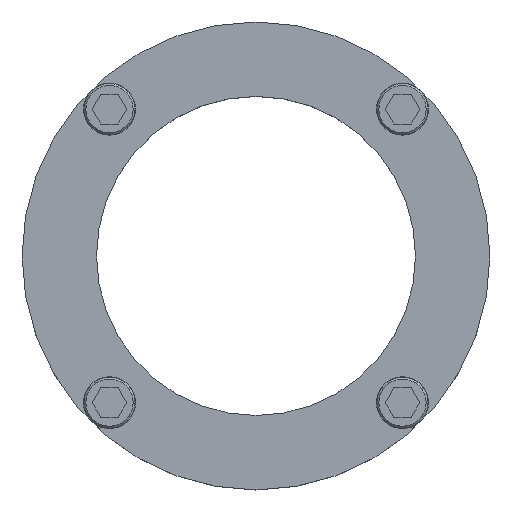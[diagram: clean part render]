
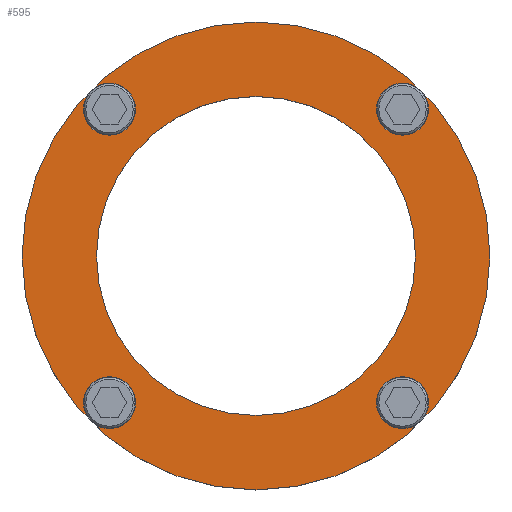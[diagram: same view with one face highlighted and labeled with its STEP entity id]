
A CAD part, top view. The second image highlights one B-rep face of the part: STEP entity #595.
In plain terms, the highlighted planar face has unit normal (0, 0, 1).
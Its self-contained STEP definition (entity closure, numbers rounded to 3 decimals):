
#595=ADVANCED_FACE('',(#779,#780,#781,#782,#783,#784),#725,.T.);
#725=PLANE('',#2192);
#779=FACE_BOUND('',#839,.T.);
#780=FACE_BOUND('',#840,.T.);
#781=FACE_BOUND('',#841,.T.);
#782=FACE_BOUND('',#842,.T.);
#783=FACE_BOUND('',#843,.T.);
#784=FACE_BOUND('',#844,.T.);
#839=EDGE_LOOP('',(#1007,#1008));
#840=EDGE_LOOP('',(#1009,#1010));
#841=EDGE_LOOP('',(#1011,#1012));
#842=EDGE_LOOP('',(#1013,#1014));
#843=EDGE_LOOP('',(#1015,#1016));
#844=EDGE_LOOP('',(#1017,#1018));
#1007=ORIENTED_EDGE('',*,*,#1759,.T.);
#1008=ORIENTED_EDGE('',*,*,#1760,.T.);
#1009=ORIENTED_EDGE('',*,*,#1761,.T.);
#1010=ORIENTED_EDGE('',*,*,#1762,.T.);
#1011=ORIENTED_EDGE('',*,*,#1763,.T.);
#1012=ORIENTED_EDGE('',*,*,#1764,.T.);
#1013=ORIENTED_EDGE('',*,*,#1765,.T.);
#1014=ORIENTED_EDGE('',*,*,#1766,.T.);
#1015=ORIENTED_EDGE('',*,*,#1767,.T.);
#1016=ORIENTED_EDGE('',*,*,#1768,.T.);
#1017=ORIENTED_EDGE('',*,*,#1769,.T.);
#1018=ORIENTED_EDGE('',*,*,#1770,.T.);
#1575=VERTEX_POINT('',#3130);
#1576=VERTEX_POINT('',#3131);
#1577=VERTEX_POINT('',#3134);
#1578=VERTEX_POINT('',#3135);
#1579=VERTEX_POINT('',#3138);
#1580=VERTEX_POINT('',#3139);
#1581=VERTEX_POINT('',#3142);
#1582=VERTEX_POINT('',#3143);
#1583=VERTEX_POINT('',#3146);
#1584=VERTEX_POINT('',#3147);
#1585=VERTEX_POINT('',#3150);
#1586=VERTEX_POINT('',#3151);
#1759=EDGE_CURVE('',#1575,#1576,#2043,.T.);
#1760=EDGE_CURVE('',#1576,#1575,#2044,.T.);
#1761=EDGE_CURVE('',#1577,#1578,#2045,.T.);
#1762=EDGE_CURVE('',#1578,#1577,#2046,.T.);
#1763=EDGE_CURVE('',#1579,#1580,#2047,.T.);
#1764=EDGE_CURVE('',#1580,#1579,#2048,.T.);
#1765=EDGE_CURVE('',#1581,#1582,#2049,.T.);
#1766=EDGE_CURVE('',#1582,#1581,#2050,.T.);
#1767=EDGE_CURVE('',#1583,#1584,#2051,.T.);
#1768=EDGE_CURVE('',#1584,#1583,#2052,.T.);
#1769=EDGE_CURVE('',#1585,#1586,#2053,.T.);
#1770=EDGE_CURVE('',#1586,#1585,#2054,.T.);
#2043=CIRCLE('',#2180,110.);
#2044=CIRCLE('',#2181,110.);
#2045=CIRCLE('',#2182,9.);
#2046=CIRCLE('',#2183,9.);
#2047=CIRCLE('',#2184,9.);
#2048=CIRCLE('',#2185,9.);
#2049=CIRCLE('',#2186,9.);
#2050=CIRCLE('',#2187,9.);
#2051=CIRCLE('',#2188,9.);
#2052=CIRCLE('',#2189,9.);
#2053=CIRCLE('',#2190,75.);
#2054=CIRCLE('',#2191,75.);
#2180=AXIS2_PLACEMENT_3D('',#3129,#2448,#2449);
#2181=AXIS2_PLACEMENT_3D('',#3132,#2450,#2451);
#2182=AXIS2_PLACEMENT_3D('',#3133,#2452,#2453);
#2183=AXIS2_PLACEMENT_3D('',#3136,#2454,#2455);
#2184=AXIS2_PLACEMENT_3D('',#3137,#2456,#2457);
#2185=AXIS2_PLACEMENT_3D('',#3140,#2458,#2459);
#2186=AXIS2_PLACEMENT_3D('',#3141,#2460,#2461);
#2187=AXIS2_PLACEMENT_3D('',#3144,#2462,#2463);
#2188=AXIS2_PLACEMENT_3D('',#3145,#2464,#2465);
#2189=AXIS2_PLACEMENT_3D('',#3148,#2466,#2467);
#2190=AXIS2_PLACEMENT_3D('',#3149,#2468,#2469);
#2191=AXIS2_PLACEMENT_3D('',#3152,#2470,#2471);
#2192=AXIS2_PLACEMENT_3D('',#3153,#2472,#2473);
#2448=DIRECTION('',(0.,0.,1.));
#2449=DIRECTION('',(1.,0.,0.));
#2450=DIRECTION('',(0.,0.,1.));
#2451=DIRECTION('',(-1.,0.,0.));
#2452=DIRECTION('',(0.,0.,-1.));
#2453=DIRECTION('',(-1.,0.,0.));
#2454=DIRECTION('',(0.,0.,-1.));
#2455=DIRECTION('',(1.,0.,0.));
#2456=DIRECTION('',(0.,0.,-1.));
#2457=DIRECTION('',(-1.,0.,0.));
#2458=DIRECTION('',(0.,0.,-1.));
#2459=DIRECTION('',(1.,0.,0.));
#2460=DIRECTION('',(0.,0.,-1.));
#2461=DIRECTION('',(-1.,0.,0.));
#2462=DIRECTION('',(0.,0.,-1.));
#2463=DIRECTION('',(1.,0.,0.));
#2464=DIRECTION('',(0.,0.,-1.));
#2465=DIRECTION('',(-1.,0.,0.));
#2466=DIRECTION('',(0.,0.,-1.));
#2467=DIRECTION('',(1.,0.,0.));
#2468=DIRECTION('',(0.,0.,-1.));
#2469=DIRECTION('',(-1.,0.,0.));
#2470=DIRECTION('',(0.,0.,-1.));
#2471=DIRECTION('',(1.,0.,0.));
#2472=DIRECTION('',(0.,0.,1.));
#2473=DIRECTION('',(0.,-1.,0.));
#3129=CARTESIAN_POINT('',(0.,0.,27.));
#3130=CARTESIAN_POINT('',(0.,110.,27.));
#3131=CARTESIAN_POINT('',(0.,-110.,27.));
#3132=CARTESIAN_POINT('',(0.,0.,27.));
#3133=CARTESIAN_POINT('',(68.886,-69.,27.));
#3134=CARTESIAN_POINT('',(68.886,-60.,27.));
#3135=CARTESIAN_POINT('',(68.886,-78.,27.));
#3136=CARTESIAN_POINT('',(68.886,-69.,27.));
#3137=CARTESIAN_POINT('',(68.886,69.,27.));
#3138=CARTESIAN_POINT('',(68.886,78.,27.));
#3139=CARTESIAN_POINT('',(68.886,60.,27.));
#3140=CARTESIAN_POINT('',(68.886,69.,27.));
#3141=CARTESIAN_POINT('',(-68.886,69.,27.));
#3142=CARTESIAN_POINT('',(-68.886,78.,27.));
#3143=CARTESIAN_POINT('',(-68.886,60.,27.));
#3144=CARTESIAN_POINT('',(-68.886,69.,27.));
#3145=CARTESIAN_POINT('',(-68.886,-69.,27.));
#3146=CARTESIAN_POINT('',(-68.886,-60.,27.));
#3147=CARTESIAN_POINT('',(-68.886,-78.,27.));
#3148=CARTESIAN_POINT('',(-68.886,-69.,27.));
#3149=CARTESIAN_POINT('',(0.,0.,27.));
#3150=CARTESIAN_POINT('',(0.,75.,27.));
#3151=CARTESIAN_POINT('',(0.,-75.,27.));
#3152=CARTESIAN_POINT('',(0.,0.,27.));
#3153=CARTESIAN_POINT('',(110.,0.,27.));
